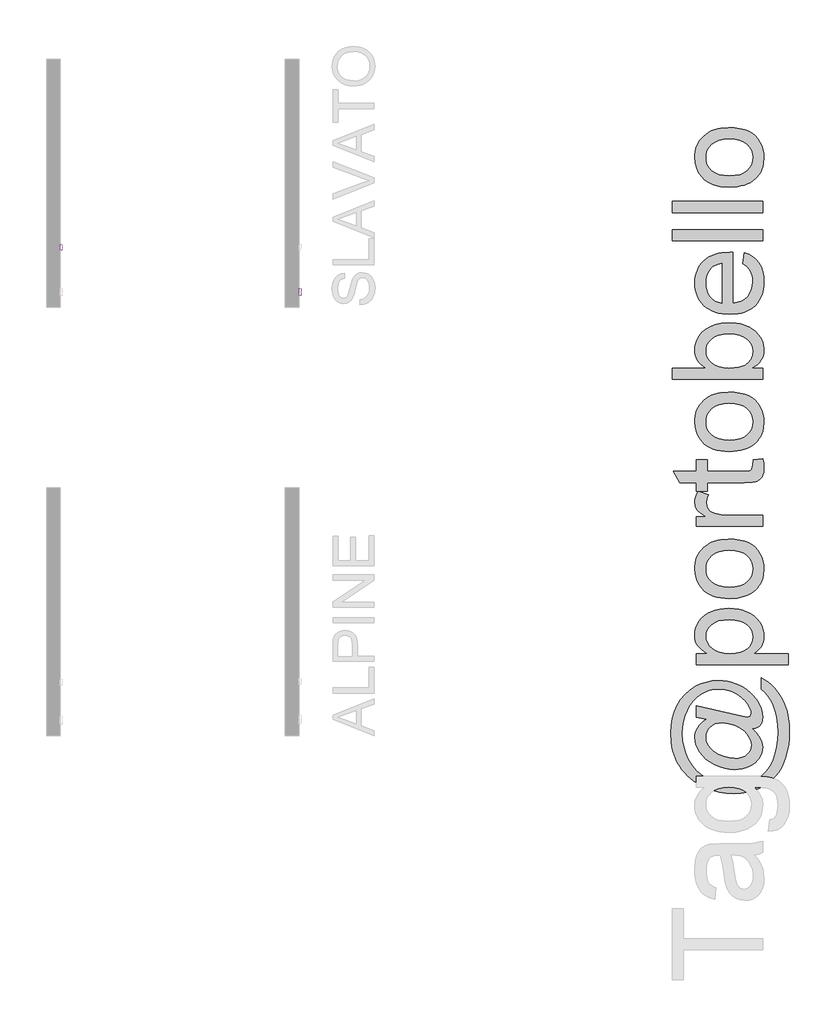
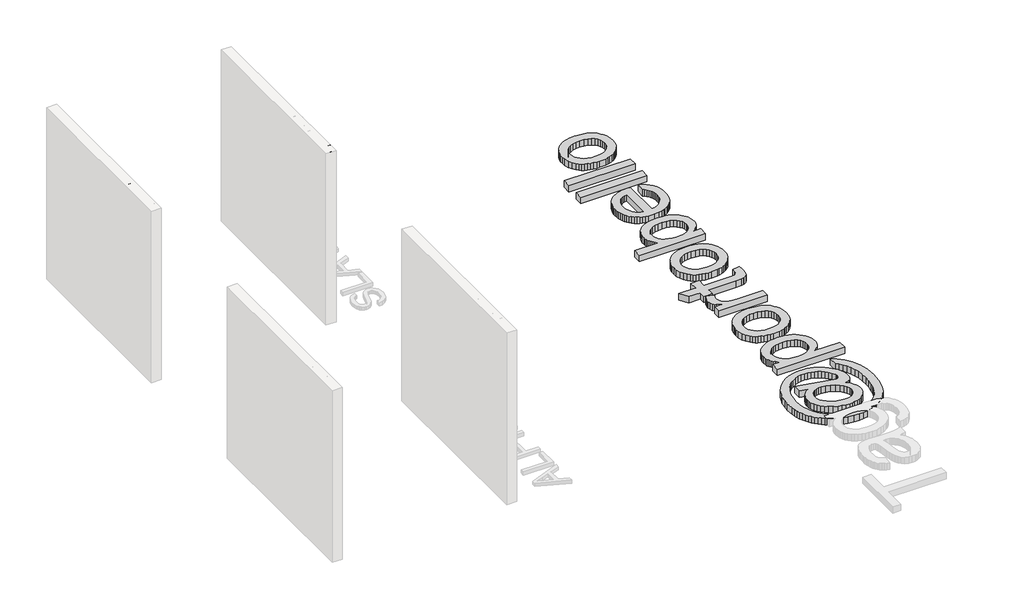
# One storey, part 6 of 11: 3 proxies.
"""IFC4 building model written with IfcOpenShell, lengths in millimetres."""

from ifc_helpers import new_model, si_unit, frame, origin, origin_with_axes, place, context, project, spatial, polyline, outline, extrude, element, save

model = new_model("IFC4")

# Units and contexts
model_context = context("Model", 3, world=origin())
ifc_project = project(units=[si_unit("LENGTHUNIT", "METRE", prefix="MILLI")], contexts=[model_context])

# Site, building, storey
site = spatial("IfcSite", under=ifc_project)
building = spatial("IfcBuilding", under=site)
storey = spatial("IfcBuildingStorey", under=building, Name="PORTOBELLO - SHOWROOM", Elevation=0.0)

# Proxies
placement = place(None, origin())
element("IfcBuildingElementProxy", 1, Name="10mm Arial", ObjectType="10mm Arial", at=placement, inside=storey, context=model_context, shape_type="SweptSolid", body=[
    extrude(outline(polyline([(-4686.8417052, 2603.5991695), (-4674.2846665, 2603.5991695), (-4670.2379645, 2591.029868), (-4660.3542016, 2583.0836169), (-4645.2955652, 2580.0547218), (-4632.1744408, 2582.3478529), (-4623.7008921, 2588.6508978), (-4620.9172517, 2597.0753955), (-4623.0019163, 2604.911282), (-4631.5367786, 2610.6134529), (-4649.8205138, 2615.4081816), (-4669.5022005, 2621.6008618), (-4680.1830411, 2630.9450645), (-4683.7024455, 2643.4285269), (-4679.3491753, 2657.6410346), (-4666.632721, 2667.6719503), (-4648.017892, 2671.0932529), (-4628.1522643, 2667.5125348), (-4614.9085124, 2656.9911097), (-4609.9298428, 2641.2702858), (-4622.4868815, 2641.2702858), (-4624.7922754, 2648.7628158), (-4629.5992668, 2654.1706811), (-4647.5273827, 2658.5362141), (-4665.5045495, 2654.219732), (-4671.1454068, 2643.7964089), (-4667.1477558, 2635.0898683), (-4646.6444659, 2628.0755849), (-4624.4243934, 2621.7725401), (-4612.2720248, 2611.5944715), (-4608.3602129, 2597.3942265), (-4612.860636, 2582.3723784), (-4625.8100822, 2571.4094949), (-4644.8050559, 2567.4976831), (-4667.2335949, 2571.7160633), (-4681.4215772, 2584.4202548), (-4686.8417052, 2603.5991695)])), frame((-23458.2301018, 0.0, 0.0), z_axis=(1.0, 0.0, 0.0), x_axis=(0.0, 1.0, 0.0)), (0.0, 0.0, 1.0), 20.0),
    extrude(outline(polyline([(-23438.2301018, -4578.5372459), (-23438.2301018, -4591.0942846), (-23458.2301018, -4591.0942846), (-23458.2301018, -4578.5372459), (-23438.2301018, -4578.5372459)])), frame((0.0, 0.0, 2569.0673129), z_axis=(0.0, 0.0, 1.0), x_axis=(1.0, 0.0, 0.0)), (0.0, 0.0, 1.0), 100.4563101),
    extrude(outline(polyline([(-4512.6127923, 2578.485092), (-4524.7896864, 2569.9747552), (-4538.2419047, 2567.4976831), (-4548.7357386, 2568.9876051), (-4556.4765889, 2573.4573714), (-4561.2498578, 2580.2447942), (-4562.8409474, 2588.687686), (-4560.4374517, 2598.6204998), (-4554.1221441, 2605.8309869), (-4545.3297644, 2609.9512653), (-4534.4649828, 2611.8397262), (-4512.6863687, 2616.1562083), (-4512.6127923, 2618.9521114), (-4516.0708831, 2628.2227377), (-4529.952297, 2631.8525067), (-4542.6564886, 2629.4367483), (-4548.7142788, 2620.8650978), (-4561.2713175, 2622.4347277), (-4555.8389268, 2634.6974608), (-4544.9005688, 2641.8834225), (-4528.3336162, 2644.4095455), (-4513.1155644, 2642.1777281), (-4504.5193884, 2636.573659), (-4500.6688902, 2628.0510595), (-4500.0557536, 2617.0636505), (-4500.0557536, 2601.4409285), (-4499.4180914, 2579.6255262), (-4496.9164939, 2569.0673129), (-4509.4735326, 2569.0673129), (-4512.6127923, 2578.485092)]), holes=[polyline([(-4512.6127923, 2603.5991695), (-4532.8708275, 2599.7486713), (-4543.6742954, 2597.7130576), (-4548.567126, 2594.4021196), (-4550.2839086, 2589.5706028), (-4546.543775, 2582.7770486), (-4535.5686288, 2580.0547218), (-4522.8644373, 2583.0590914), (-4514.6729315, 2590.3308922), (-4512.6863687, 2600.0429769), (-4512.6127923, 2603.5991695)])]), frame((-23458.2301018, 0.0, 0.0), z_axis=(1.0, 0.0, 0.0), x_axis=(0.0, 1.0, 0.0)), (0.0, 0.0, 1.0), 20.0),
    extrude(outline(polyline([(-4464.6900311, 2569.0673129), (-4490.6379745, 2642.8399157), (-4477.3451717, 2642.8399157), (-4461.6243478, 2598.6450253), (-4456.8909328, 2583.7825927), (-4452.2556196, 2597.8111595), (-4436.4366939, 2642.8399157), (-4423.1438911, 2642.8399157), (-4448.7730034, 2569.0673129), (-4464.6900311, 2569.0673129)])), frame((-23458.2301018, 0.0, 0.0), z_axis=(1.0, 0.0, 0.0), x_axis=(0.0, 1.0, 0.0)), (0.0, 0.0, 1.0), 20.0),
    extrude(outline(polyline([(-4365.0675868, 2578.485092), (-4377.2444808, 2569.9747552), (-4390.6966991, 2567.4976831), (-4401.190533, 2568.9876051), (-4408.9313833, 2573.4573714), (-4413.7046522, 2580.2447942), (-4415.2957419, 2588.687686), (-4412.8922462, 2598.6204998), (-4406.5769386, 2605.8309869), (-4397.7845589, 2609.9512653), (-4386.9197773, 2611.8397262), (-4365.1411632, 2616.1562083), (-4365.0675868, 2618.9521114), (-4368.5256775, 2628.2227377), (-4382.4070915, 2631.8525067), (-4395.1112831, 2629.4367483), (-4401.1690732, 2620.8650978), (-4413.726112, 2622.4347277), (-4408.2937212, 2634.6974608), (-4397.3553632, 2641.8834225), (-4380.7884107, 2644.4095455), (-4365.5703588, 2642.1777281), (-4356.9741829, 2636.573659), (-4353.1236847, 2628.0510595), (-4352.510548, 2617.0636505), (-4352.510548, 2601.4409285), (-4351.8728859, 2579.6255262), (-4349.3712883, 2569.0673129), (-4361.9283271, 2569.0673129), (-4365.0675868, 2578.485092)]), holes=[polyline([(-4365.0675868, 2603.5991695), (-4385.325622, 2599.7486713), (-4396.1290899, 2597.7130576), (-4401.0219204, 2594.4021196), (-4402.7387031, 2589.5706028), (-4398.9985695, 2582.7770486), (-4388.0234233, 2580.0547218), (-4375.3192317, 2583.0590914), (-4367.127726, 2590.3308922), (-4365.1411632, 2600.0429769), (-4365.0675868, 2603.5991695)])]), frame((-23458.2301018, 0.0, 0.0), z_axis=(1.0, 0.0, 0.0), x_axis=(0.0, 1.0, 0.0)), (0.0, 0.0, 1.0), 20.0),
    extrude(outline(polyline([(-4308.5609123, 2579.539687), (-4306.9912825, 2568.6994309), (-4316.3845361, 2567.4976831), (-4326.9059612, 2569.5823477), (-4332.154411, 2575.0515267), (-4333.6749899, 2589.3008226), (-4333.6749899, 2630.2828769), (-4343.0927689, 2630.2828769), (-4343.0927689, 2642.8399157), (-4333.6749899, 2642.8399157), (-4333.6749899, 2660.7680316), (-4321.1179511, 2668.1501969), (-4321.1179511, 2642.8399157), (-4308.5609123, 2642.8399157), (-4308.5609123, 2630.2828769), (-4321.1179511, 2630.2828769), (-4321.1179511, 2589.6687046), (-4320.4557635, 2583.1939815), (-4318.3097852, 2580.9008504), (-4314.0300913, 2580.0547218), (-4308.5609123, 2579.539687)])), frame((-23458.2301018, 0.0, 0.0), z_axis=(1.0, 0.0, 0.0), x_axis=(0.0, 1.0, 0.0)), (0.0, 0.0, 1.0), 20.0),
    extrude(outline(polyline([(-4299.1431333, 2605.9536143), (-4296.4269379, 2623.7407087), (-4288.2783517, 2636.2425652), (-4278.2106477, 2642.3678004), (-4266.156381, 2644.4095455), (-4252.9647458, 2641.9232764), (-4242.4279923, 2634.4644689), (-4235.5210079, 2622.6217343), (-4233.2186797, 2606.9836839), (-4237.2899071, 2584.640984), (-4249.1479701, 2571.9981061), (-4266.156381, 2567.4976831), (-4279.5074318, 2569.9747552), (-4290.0319225, 2577.4059715), (-4296.8653306, 2589.4970264), (-4299.1431333, 2605.9536143)]), holes=[polyline([(-4286.5860945, 2605.9781397), (-4285.1329606, 2594.6136518), (-4280.773559, 2586.5171822), (-4274.2129967, 2581.6703369), (-4266.156381, 2580.0547218), (-4258.1365535, 2581.679534), (-4251.588254, 2586.5539704), (-4247.2288524, 2594.7577389), (-4245.7757185, 2606.3705472), (-4247.2380494, 2617.4039414), (-4251.6250422, 2625.3900464), (-4258.1825388, 2630.2368916), (-4266.156381, 2631.8525067), (-4274.2129967, 2630.243023), (-4280.773559, 2625.4145718), (-4285.1329606, 2617.3364963), (-4286.5860945, 2605.9781397)])]), frame((-23458.2301018, 0.0, 0.0), z_axis=(1.0, 0.0, 0.0), x_axis=(0.0, 1.0, 0.0)), (0.0, 0.0, 1.0), 20.0),
])
element("IfcBuildingElementProxy", 2, Name="10mm Arial Narrow", ObjectType="10mm Arial Narrow", at=placement, inside=storey, context=model_context, shape_type="SweptSolid", body=[
    extrude(outline(polyline([(-4191.1217935, 2562.9954612), (-4191.1217935, 2663.714065), (-4159.8249088, 2663.714065), (-4143.5292073, 2661.8357443), (-4132.0562212, 2652.3553011), (-4127.7665427, 2635.3361923), (-4129.5528511, 2623.2603667), (-4134.9117763, 2613.633973), (-4144.6555652, 2607.3327145), (-4159.5964644, 2605.2322951), (-4181.3748318, 2605.2322951), (-4181.3748318, 2562.9954612), (-4191.1217935, 2562.9954612)]), holes=[polyline([(-4181.3748318, 2616.6037503), (-4158.4034769, 2616.6037503), (-4142.5392815, 2621.1345645), (-4137.5135044, 2634.8031553), (-4139.9883189, 2644.9689317), (-4145.9659477, 2650.7688815), (-4158.6319213, 2652.3426097), (-4181.3748318, 2652.3426097), (-4181.3748318, 2616.6037503)])]), frame((-26058.2301018, 0.0, 0.0), z_axis=(1.0, 0.0, 0.0), x_axis=(0.0, 1.0, 0.0)), (0.0, 0.0, 1.0), 20.0),
    extrude(outline(polyline([(-4119.6440747, 2599.5465674), (-4117.6896058, 2616.137343), (-4111.8261992, 2628.0894278), (-4102.9676325, 2635.3139824), (-4092.0276833, 2637.7221672), (-4081.2146478, 2635.3139824), (-4072.3306983, 2628.0894278), (-4066.3911436, 2616.3277133), (-4064.411292, 2600.3080488), (-4066.3562423, 2583.1461622), (-4072.1910934, 2571.0037071), (-4081.0401416, 2563.7791525), (-4092.0276833, 2561.3709676), (-4102.8883115, 2563.7854982), (-4111.7627424, 2571.0290898), (-4117.6737416, 2582.9875203), (-4119.6440747, 2599.5465674)]), holes=[polyline([(-4109.897113, 2599.5719502), (-4108.5930762, 2587.0201988), (-4104.6809656, 2578.1489407), (-4098.8397688, 2572.8756821), (-4091.7484735, 2571.1179293), (-4085.0284003, 2572.8915463), (-4079.336327, 2578.2123975), (-4075.452772, 2587.0995197), (-4074.1582536, 2599.5719502), (-4075.4622905, 2612.0856275), (-4079.3744011, 2620.9441942), (-4085.2155978, 2626.2174527), (-4092.3068932, 2627.9752056), (-4099.0745589, 2626.2079342), (-4104.7571137, 2620.9061201), (-4108.6121132, 2612.0380349), (-4109.897113, 2599.5719502)])]), frame((-26058.2301018, 0.0, 0.0), z_axis=(1.0, 0.0, 0.0), x_axis=(0.0, 1.0, 0.0)), (0.0, 0.0, 1.0), 20.0),
    extrude(outline(polyline([(-3992.9335732, 2571.1179293), (-3991.3090796, 2561.3709676), (-3998.6700663, 2561.3709676), (-4006.9448306, 2563.4904241), (-4011.2598917, 2569.290374), (-4012.4274965, 2583.9361992), (-4012.4274965, 2626.350712), (-4020.5499646, 2626.350712), (-4020.5499646, 2629.5996992), (-4022.1744582, 2624.7262184), (-4029.7385065, 2626.350712), (-4035.8176662, 2624.0281938), (-4039.6885299, 2617.5429107), (-4041.6683815, 2602.1356041), (-4041.6683815, 2562.9954612), (-4051.4153431, 2562.9954612), (-4051.4153431, 2636.0976736), (-4041.6683815, 2636.0976736), (-4041.6683815, 2626.4014774), (-4035.4242342, 2635.4884885), (-4029.0277906, 2637.7221672), (-4020.5499646, 2636.0976736), (-4012.4274965, 2636.0976736), (-4012.4274965, 2652.3426097), (-4002.6805349, 2660.4650778), (-4002.6805349, 2636.0976736), (-3992.9335732, 2636.0976736), (-3992.9335732, 2626.350712), (-4002.6805349, 2626.350712), (-4002.6805349, 2581.7025205), (-4001.8175226, 2573.706966), (-3997.1978689, 2571.1179293), (-3992.9335732, 2571.1179293)])), frame((-26058.2301018, 0.0, 0.0), z_axis=(1.0, 0.0, 0.0), x_axis=(0.0, 1.0, 0.0)), (0.0, 0.0, 1.0), 20.0),
    extrude(outline(polyline([(-3986.4355988, 2599.5465674), (-3984.4811299, 2616.137343), (-3978.6177233, 2628.0894278), (-3969.7591566, 2635.3139824), (-3958.8192074, 2637.7221672), (-3948.0061718, 2635.3139824), (-3939.1222224, 2628.0894278), (-3933.1826676, 2616.3277133), (-3931.2028161, 2600.3080488), (-3933.1477664, 2583.1461622), (-3938.9826175, 2571.0037071), (-3947.8316657, 2563.7791525), (-3958.8192074, 2561.3709676), (-3969.6798356, 2563.7854982), (-3978.5542665, 2571.0290898), (-3984.4652657, 2582.9875203), (-3986.4355988, 2599.5465674)]), holes=[polyline([(-3976.6886371, 2599.5719502), (-3975.3846002, 2587.0201988), (-3971.4724897, 2578.1489407), (-3965.6312929, 2572.8756821), (-3958.5399976, 2571.1179293), (-3951.8199244, 2572.8915463), (-3946.1278511, 2578.2123975), (-3942.2442961, 2587.0995197), (-3940.9497777, 2599.5719502), (-3942.2538146, 2612.0856275), (-3946.1659252, 2620.9441942), (-3952.0071219, 2626.2174527), (-3959.0984173, 2627.9752056), (-3965.866083, 2626.2079342), (-3971.5486378, 2620.9061201), (-3975.4036373, 2612.0380349), (-3976.6886371, 2599.5719502)])]), frame((-26058.2301018, 0.0, 0.0), z_axis=(1.0, 0.0, 0.0), x_axis=(0.0, 1.0, 0.0)), (0.0, 0.0, 1.0), 20.0),
    extrude(outline(polyline([(-3908.4599055, 2562.9954612), (-3918.2068672, 2562.9954612), (-3918.2068672, 2663.714065), (-3908.4599055, 2663.714065), (-3908.4599055, 2628.3051809), (-3901.0608448, 2635.3869577), (-3891.8596115, 2637.7221672), (-3878.9778848, 2633.5213283), (-3869.7005033, 2620.7918979), (-3866.2230717, 2600.1049871), (-3868.1553307, 2583.6506436), (-3873.9521077, 2571.4479045), (-3882.32523, 2563.8902019), (-3891.986525, 2561.3709676), (-3901.3273633, 2563.985387), (-3908.4599055, 2571.7524971), (-3908.4599055, 2562.9954612)]), holes=[polyline([(-3908.4599055, 2600.1049871), (-3906.3785231, 2582.8574339), (-3900.4897338, 2574.1257807), (-3892.0372905, 2571.1179293), (-3886.0945629, 2572.9074105), (-3880.8562055, 2578.2758542), (-3875.9700334, 2599.6988637), (-3880.6785266, 2621.1345645), (-3885.9232296, 2626.2650453), (-3892.2403522, 2627.9752056), (-3898.217981, 2626.1857244), (-3903.5102766, 2620.8172806), (-3908.4599055, 2600.1049871)])]), frame((-26058.2301018, 0.0, 0.0), z_axis=(1.0, 0.0, 0.0), x_axis=(0.0, 1.0, 0.0)), (0.0, 0.0, 1.0), 20.0),
    extrude(outline(polyline([(-3814.2392762, 2585.7383718), (-3804.4923146, 2584.1138782), (-3808.1918449, 2574.2273116), (-3814.0108318, 2567.1074607), (-3821.7144851, 2562.8050909), (-3831.0680147, 2561.3709676), (-3842.6615687, 2563.7854982), (-3851.8056909, 2571.0290898), (-3857.7452457, 2582.835224), (-3859.7250973, 2598.9373823), (-3857.7357272, 2615.604306), (-3851.7676169, 2627.7848353), (-3842.753581, 2635.2378342), (-3831.6264344, 2637.7221672), (-3820.9434852, 2635.3235009), (-3812.1959679, 2628.1275019), (-3806.3611168, 2616.3879973), (-3804.4161664, 2600.3588142), (-3804.4923146, 2597.109827), (-3849.9781356, 2597.109827), (-3843.9751241, 2577.6666691), (-3838.0450878, 2572.7551142), (-3830.9411011, 2571.1179293), (-3820.7626334, 2574.7730399), (-3814.2392762, 2585.7383718)]), holes=[polyline([(-3849.3181851, 2606.8567887), (-3814.2392762, 2606.8567887), (-3818.5035719, 2621.1218732), (-3824.3289045, 2626.2618725), (-3831.5502862, 2627.9752056), (-3843.759371, 2622.2640953), (-3849.3181851, 2606.8567887)])]), frame((-26058.2301018, 0.0, 0.0), z_axis=(1.0, 0.0, 0.0), x_axis=(0.0, 1.0, 0.0)), (0.0, 0.0, 1.0), 20.0),
    extrude(outline(polyline([(-26038.2301018, -3781.749404), (-26038.2301018, -3791.4963657), (-26058.2301018, -3791.4963657), (-26058.2301018, -3781.749404), (-26038.2301018, -3781.749404)])), frame((0.0, 0.0, 2562.9954612), z_axis=(0.0, 0.0, 1.0), x_axis=(1.0, 0.0, 0.0)), (0.0, 0.0, 1.0), 100.7186038),
    extrude(outline(polyline([(-26038.2301018, -3755.7575063), (-26038.2301018, -3765.504468), (-26058.2301018, -3765.504468), (-26058.2301018, -3755.7575063), (-26038.2301018, -3755.7575063)])), frame((0.0, 0.0, 2562.9954612), z_axis=(0.0, 0.0, 1.0), x_axis=(1.0, 0.0, 0.0)), (0.0, 0.0, 1.0), 100.7186038),
    extrude(outline(polyline([(-3744.386051, 2599.5465674), (-3742.4315822, 2616.137343), (-3736.5681755, 2628.0894278), (-3727.7096088, 2635.3139824), (-3716.7696597, 2637.7221672), (-3705.9566241, 2635.3139824), (-3697.0726747, 2628.0894278), (-3691.1331199, 2616.3277133), (-3689.1532683, 2600.3080488), (-3691.0982187, 2583.1461622), (-3696.9330698, 2571.0037071), (-3705.7821179, 2563.7791525), (-3716.7696597, 2561.3709676), (-3727.6302879, 2563.7854982), (-3736.5047188, 2571.0290898), (-3742.415718, 2582.9875203), (-3744.386051, 2599.5465674)]), holes=[polyline([(-3734.6390894, 2599.5719502), (-3733.3350525, 2587.0201988), (-3729.4229419, 2578.1489407), (-3723.5817452, 2572.8756821), (-3716.4904498, 2571.1179293), (-3709.7703767, 2572.8915463), (-3704.0783034, 2578.2123975), (-3700.1947483, 2587.0995197), (-3698.90023, 2599.5719502), (-3700.2042668, 2612.0856275), (-3704.1163774, 2620.9441942), (-3709.9575742, 2626.2174527), (-3717.0488695, 2627.9752056), (-3723.8165353, 2626.2079342), (-3729.4990901, 2620.9061201), (-3733.3540896, 2612.0380349), (-3734.6390894, 2599.5719502)])]), frame((-26058.2301018, 0.0, 0.0), z_axis=(1.0, 0.0, 0.0), x_axis=(0.0, 1.0, 0.0)), (0.0, 0.0, 1.0), 20.0),
])
element("IfcBuildingElementProxy", 3, Name="80mm OpenSans Bold", ObjectType="80mm OpenSans Bold", at=placement, inside=storey, context=model_context, shape_type="SweptSolid", body=[
    extrude(outline(polyline([(-18524.4026788, -9398.1616347), (-18478.4626159, -9444.041606), (-18442.5578577, -9495.1495504), (-18429.0447489, -9522.0330503), (-18419.3925284, -9548.9616189), (-18413.601196, -9575.9352563), (-18411.6707519, -9602.9539624), (-18413.8791199, -9632.4289145), (-18420.5042238, -9661.4832251), (-18431.5460637, -9690.1168941), (-18447.0046395, -9718.3299217), (-18467.0452032, -9745.0181237), (-18491.833007, -9769.0773163), (-18521.3680507, -9790.5074993), (-18555.6503344, -9809.3086729), (-18593.2076129, -9824.6095081), (-18632.5676406, -9835.5386761), (-18673.7304178, -9842.0961769), (-18716.6959443, -9844.2820105), (-18770.6882877, -9840.894344), (-18824.7407228, -9830.7313445), (-18878.8532495, -9813.7930119), (-18933.0258679, -9790.0793463), (-18983.8483771, -9761.325494), (-19027.9105761, -9729.2666011), (-19065.212465, -9693.9026678), (-19095.7540438, -9655.2336939), (-19119.5202896, -9615.2051466), (-19136.4961794, -9575.7624928), (-19146.6817133, -9536.9057326), (-19150.0768913, -9498.6348659), (-19148.1464472, -9470.1063572), (-19142.3551149, -9442.2088108), (-19132.7028943, -9414.9422267), (-19119.1897855, -9388.3066048), (-19101.7256511, -9362.9028617), (-19080.2203535, -9339.3319138), (-19054.6738927, -9317.593761), (-19025.0862688, -9297.6884035), (-19134.6934301, -9275.0939448), (-19134.6934301, -9152.0262549), (-18683.2849894, -9253.9416856), (-18579.2062595, -9275.0939448), (-18562.2303696, -9271.6386752), (-18547.8384205, -9261.2728663), (-18538.0134365, -9246.0396342), (-18534.7384418, -9227.9820947), (-18537.1721535, -9208.6776536), (-18544.4732884, -9186.578951), (-18573.6778281, -9133.9987612), (-18601.2223361, -9097.5456668), (-18633.1385113, -9065.1036897), (-18669.4263537, -9036.67283), (-18710.0858633, -9012.2530875), (-18753.269222, -8992.6406768), (-18797.1286117, -8978.6318119), (-18841.6640325, -8970.226493), (-18886.8754842, -8967.42472), (-18939.1251699, -8971.0302188), (-18989.6321979, -8981.8467149), (-19038.3965682, -8999.8742086), (-19085.4182808, -9025.1126997), (-19129.2626476, -9057.509608), (-19168.4949806, -9097.0123535), (-19203.1152799, -9143.620936), (-19233.1235453, -9197.3353556), (-19257.3630128, -9256.0974734), (-19274.6769182, -9317.8491505), (-19285.0652614, -9382.590387), (-19288.5280424, -9450.3211829), (-19284.1338409, -9527.5840161), (-19270.9512361, -9601.4516713), (-19248.9802283, -9671.9241485), (-19218.2208173, -9739.0014477), (-19179.2588966, -9800.7005447), (-19132.68036, -9855.0384151), (-19078.4852072, -9902.0150589), (-19016.6734384, -9941.6304762), (-18949.8815745, -9973.0734297), (-18880.7461364, -9995.5326822), (-18809.2671241, -10009.0082337), (-18735.4445377, -10013.5000842), (-18659.4661634, -10009.0533024), (-18588.9711519, -9995.7129571), (-18523.9595029, -9973.4790483), (-18464.4312166, -9942.3515759), (-18411.3552708, -9902.8037618), (-18365.7006432, -9855.3088275), (-18327.4673337, -9799.8667731), (-18296.6553425, -9736.4775986), (-18272.9416769, -9667.3046032), (-18256.0033444, -9594.5110862), (-18245.8403448, -9518.0970475), (-18242.4526783, -9438.0624873), (-18245.8178105, -9354.0092982), (-18255.9132069, -9277.0769691), (-18272.7388676, -9207.2655), (-18296.2947926, -9144.5748908), (-18324.6580493, -9089.1553708), (-18355.9057049, -9041.157169), (-18390.0377596, -9000.5802854), (-18427.0542132, -8967.42472), (-18427.0542132, -8844.3570301), (-18390.9541572, -8864.3450137), (-18354.5235971, -8890.4172764), (-18317.762533, -8922.5738182), (-18280.6709648, -8960.814639), (-18245.3596117, -9004.0580894), (-18213.9391926, -9051.2225196), (-18186.4097075, -9102.3079297), (-18162.7711564, -9157.3143197), (-18143.7897079, -9217.1956444), (-18130.2315304, -9282.9058587), (-18122.0966239, -9354.4449626), (-18119.3849884, -9431.8129561), (-18121.7811428, -9504.290992), (-18128.9696059, -9573.8996518), (-18140.9503777, -9640.6389355), (-18157.7234582, -9704.5088432), (-18179.2963589, -9764.6380459), (-18205.6765913, -9820.1552149), (-18236.8641553, -9871.0603501), (-18272.8590509, -9917.3534514), (-18312.7223462, -9958.6213889), (-18355.5151092, -9994.4510325), (-18401.23734, -10024.8423822), (-18449.8890384, -10049.795438), (-18514.6077406, -10074.2978064), (-18581.8502919, -10091.7994982), (-18651.6166922, -10102.3005132), (-18723.9069417, -10105.8008516), (-18804.8954569, -10101.6244822), (-18883.9309936, -10089.0953741), (-18961.0135518, -10068.2135273), (-19036.1431315, -10038.9789418), (-19121.7962607, -9994.0754598), (-19160.6286087, -9968.4125714), (-19196.7981457, -9940.6089182), (-19230.3048716, -9910.6645001), (-19261.1487865, -9878.5793172), (-19289.3298903, -9844.3533694), (-19314.8481832, -9807.9866567), (-19337.52339, -9769.5542937), (-19357.1752359, -9729.1313949), (-19373.8037209, -9686.7179604), (-19387.408845, -9642.3139902), (-19397.9906082, -9595.9194841), (-19405.5490105, -9547.5344424), (-19411.5957323, -9444.7927515), (-19407.3592713, -9364.209855), (-19394.6498883, -9287.8333736), (-19373.4675833, -9215.6633074), (-19343.8123563, -9147.6996564), (-19305.7593218, -9085.3095055), (-19259.3835944, -9029.8599397), (-19204.6851741, -8981.3509589), (-19141.6640609, -8939.7825631), (-19082.6991338, -8911.494421), (-19021.1803118, -8891.2886052), (-18957.1075948, -8879.1651158), (-18890.4809829, -8875.1239526), (-18842.7794836, -8877.2196487), (-18796.4225349, -8883.5067371), (-18751.4101367, -8893.9852178), (-18707.7422891, -8908.6550908), (-18665.4189921, -8927.516356), (-18624.4402456, -8950.5690135), (-18584.8060497, -8977.8130632), (-18546.5164043, -9009.2485053), (-18514.9119546, -9039.5797633), (-18487.5214314, -9070.6020753), (-18464.3448349, -9102.3154412), (-18445.382165, -9134.719861), (-18430.6334218, -9167.8153347), (-18420.0986052, -9201.6018624), (-18413.7777152, -9236.079444), (-18411.6707519, -9271.2480795), (-18415.216159, -9312.2906733), (-18425.8523803, -9344.5598869), (-18443.0385909, -9368.77682), (-18466.233966, -9385.6625724), (-18489.3091579, -9393.1139365), (-18524.4026788, -9398.1616347)]), holes=[polyline([(-18714.7730116, -9721.2143207), (-18674.4815633, -9718.5177081), (-18638.937355, -9710.4278703), (-18608.1403868, -9696.9448073), (-18582.0906584, -9678.0685192), (-18561.3740637, -9655.7069156), (-18546.576496, -9631.7679064), (-18537.6979554, -9606.2514914), (-18534.7384418, -9579.1576708), (-18539.966415, -9540.9093385), (-18555.6503344, -9500.6779818), (-18581.6099253, -9460.3865335), (-18617.6649126, -9421.9579263), (-18664.2960294, -9387.8559175), (-18721.9840091, -9360.5442646), (-18785.3206034, -9342.6069084), (-18848.8975643, -9336.6277897), (-18888.8359741, -9339.4295627), (-18924.0421669, -9347.8348816), (-18954.5161426, -9361.8437464), (-18980.2579012, -9381.4561572), (-19000.7115951, -9405.0947083), (-19015.3213764, -9431.1819938), (-19024.0872452, -9459.718014), (-19027.0092014, -9490.7027687), (-19021.9314574, -9531.9857291), (-19006.6982252, -9570.7448404), (-18980.2579012, -9607.6711566), (-18941.5588816, -9643.4557314), (-18891.8931366, -9675.1841202), (-18832.5526367, -9699.9418782), (-18771.0187918, -9715.89621), (-18714.7730116, -9721.2143207)])]), origin_with_axes(), (0.0, 0.0, 1.0), 100.0),
    extrude(outline(polyline([(-18134.7684497, -8705.905879), (-19134.6934301, -8705.905879), (-19134.6934301, -8582.8381891), (-19014.029406, -8582.8381891), (-19045.9155354, -8563.368496), (-19073.5501808, -8542.6969699), (-19096.9333424, -8520.823611), (-19116.06502, -8497.7484191), (-19130.9452137, -8472.8103863), (-19141.5739235, -8445.3485043), (-19147.9511494, -8415.3627732), (-19150.0768913, -8382.853193), (-19147.1023549, -8339.9327353), (-19138.1787455, -8299.6262641), (-19123.3060633, -8261.9337794), (-19102.4843081, -8226.8552814), (-19076.2543049, -8195.1569384), (-19045.1568783, -8167.604919), (-19009.1920285, -8144.1992231), (-18968.3597554, -8124.9398507), (-18924.0571898, -8109.9019164), (-18877.6814625, -8099.1605348), (-18829.2325733, -8092.7157058), (-18778.7105224, -8090.5674295), (-18724.6956446, -8092.9936297), (-18673.4600054, -8100.2722303), (-18625.0036048, -8112.4032312), (-18579.3264428, -8129.3866325), (-18537.6228408, -8150.989579), (-18501.0871204, -8176.9792157), (-18469.7192814, -8207.3555425), (-18443.519324, -8242.1185594), (-18422.8553094, -8279.5631659), (-18408.095299, -8317.9842617), (-18399.2392928, -8357.3818468), (-18396.2872907, -8397.7559211), (-18398.2628035, -8426.8027202), (-18404.1893421, -8454.3322053), (-18414.0669063, -8480.3443763), (-18427.8954962, -8504.8392333), (-18463.6800711, -8548.0751722), (-18507.8173847, -8582.8381891), (-18134.7684497, -8582.8381891), (-18134.7684497, -8705.905879)]), holes=[polyline([(-18767.413293, -8582.8381891), (-18708.102839, -8579.5106142), (-18657.085032, -8569.5278896), (-18614.3598721, -8552.8900153), (-18579.9273592, -8529.5969912), (-18553.4269436, -8501.5567272), (-18534.4980752, -8470.6771329), (-18523.1407543, -8436.9582083), (-18519.3549806, -8400.3999535), (-18523.2759605, -8363.3158968), (-18535.0389001, -8328.9810329), (-18554.6437994, -8297.3953617), (-18582.0906584, -8268.5588834), (-18617.7700729, -8244.5297366), (-18662.0726385, -8227.3660604), (-18714.9983553, -8217.0678547), (-18776.5472231, -8213.6351194), (-18835.3468982, -8216.9852286), (-18886.2745678, -8227.0355563), (-18929.3302317, -8243.7861025), (-18964.5138901, -8267.2368672), (-18991.8555888, -8295.3447343), (-19011.3853736, -8326.0665881), (-19023.1032445, -8359.4024284), (-19027.0092014, -8395.3522553), (-19022.8553664, -8431.1894103), (-19010.3938614, -8464.9083349), (-18989.6246865, -8496.5090289), (-18960.5478415, -8525.9914925), (-18923.5539223, -8550.8619223), (-18879.0335245, -8568.626515), (-18826.9866481, -8579.2852706), (-18767.413293, -8582.8381891)])]), origin_with_axes(), (0.0, 0.0, 1.0), 100.0),
    extrude(outline(polyline([(-18773.182091, -7982.8832009), (-18821.619713, -7981.2194134), (-18866.8198975, -7976.2280511), (-18908.7826447, -7967.909114), (-18947.5079545, -7956.2626019), (-18982.9958268, -7941.288515), (-19015.2462618, -7922.9868532), (-19044.2592594, -7901.3576166), (-19070.0348196, -7876.4008051), (-19105.053226, -7829.4992758), (-19130.0663734, -7777.7303233), (-19145.0742618, -7721.0939474), (-19150.0768913, -7659.5901483), (-19148.5539437, -7624.8290093), (-19143.9851008, -7591.6941004), (-19136.3703626, -7560.1854217), (-19125.7097291, -7530.3029731), (-19112.0032003, -7502.0467547), (-19095.2507763, -7475.4167664), (-19075.452457, -7450.4130083), (-19052.6082424, -7427.0354804), (-19027.0786824, -7405.8813433), (-18999.2243268, -7387.5477578), (-18969.0451758, -7372.034724), (-18936.5412292, -7359.3422418), (-18901.712487, -7349.4703111), (-18864.5589494, -7342.4189321), (-18783.2774874, -7336.7778289), (-18717.4020211, -7339.2716322), (-18658.947873, -7346.753042), (-18607.9150431, -7359.2220585), (-18564.3035314, -7376.6786815), (-18526.6335811, -7398.9050788), (-18493.4254356, -7425.6834183), (-18464.6790947, -7457.0137), (-18440.3945585, -7492.8959238), (-18421.0976288, -7531.932959), (-18407.3141076, -7572.7276748), (-18399.0439949, -7615.2800712), (-18396.2872907, -7659.5901483), (-18402.3565469, -7728.4777084), (-18409.9431171, -7760.3244026), (-18420.5643155, -7790.4397063), (-18434.2201419, -7818.8236194), (-18450.9105964, -7845.4761421), (-18470.635679, -7870.3972741), (-18493.3953898, -7893.5870157), (-18519.0094536, -7914.5158091), (-18547.2975957, -7932.6540967), (-18578.259816, -7948.0018785), (-18611.8961146, -7960.5591546), (-18648.2064914, -7970.3259248), (-18687.1909464, -7977.3021893), (-18773.182091, -7982.8832009)]), holes=[polyline([(-18773.4224576, -7859.815511), (-18713.7289193, -7856.255081), (-18662.0425927, -7845.573791), (-18618.3634779, -7827.771641), (-18582.6915749, -7802.8486311), (-18554.9818149, -7772.5323959), (-18535.1891292, -7738.5505704), (-18523.3135177, -7700.9031545), (-18519.3549806, -7659.5901483), (-18523.3360521, -7618.4874628), (-18535.2792666, -7580.990276), (-18555.1846242, -7547.098588), (-18583.0521248, -7516.8123987), (-18619.0770662, -7491.8893887), (-18663.4547464, -7474.0872388), (-18716.1851653, -7463.4059488), (-18777.2683229, -7459.8455188), (-18835.0689744, -7463.4284832), (-18885.4032389, -7474.1773762), (-18928.2711165, -7492.092198), (-18963.6726071, -7517.1729486), (-18991.3823671, -7547.5718097), (-19011.1750528, -7581.4409634), (-19023.0506643, -7618.7804096), (-19027.0092014, -7659.5901483), (-19023.0656872, -7700.9031545), (-19011.2351445, -7738.5505704), (-18991.5175733, -7772.5323959), (-18963.9129737, -7802.8486311), (-18928.346231, -7827.771641), (-18884.7422308, -7845.573791), (-18833.100973, -7856.255081), (-18773.4224576, -7859.815511)])]), origin_with_axes(), (0.0, 0.0, 1.0), 100.0),
    extrude(outline(polyline([(-18514.3072824, -6475.3039996), (-18408.0652532, -6459.9205384), (-18399.2317813, -6508.6548628), (-18396.2872907, -6551.9809392), (-18401.3950806, -6611.0510267), (-18407.7798179, -6634.9524787), (-18416.7184501, -6655.0982028), (-18440.3344668, -6686.2256752), (-18470.3201979, -6706.5366513), (-18491.48748, -6713.0565949), (-18521.8187381, -6717.7136974), (-18609.9731819, -6721.4393794), (-19011.6257402, -6721.4393794), (-19011.6257402, -6813.7401468), (-19112.0989714, -6813.7401468), (-19134.6934301, -6813.7401468), (-19134.6934301, -6721.4393794), (-19310.4014014, -6721.4393794), (-19382.7517425, -6598.3716895), (-19134.6934301, -6598.3716895), (-19134.6934301, -6475.3039996), (-19011.6257402, -6475.3039996), (-19011.6257402, -6598.3716895), (-18613.5786807, -6598.3716895), (-18573.0769116, -6596.7492151), (-18550.1219031, -6591.8817918), (-18537.41252, -6583.378824), (-18527.6476277, -6570.8497159), (-18521.4281424, -6553.0926347), (-18519.3549806, -6528.9057474), (-18514.3072824, -6475.3039996)])), origin_with_axes(), (0.0, 0.0, 1.0), 100.0),
    extrude(outline(polyline([(-18411.6707519, -7198.3266778), (-19134.6934301, -7198.3266778), (-19134.6934301, -7090.6424491), (-19027.7303012, -7090.6424491), (-19089.7448793, -7050.8617798), (-19111.1975967, -7032.1432322), (-19126.2805997, -7014.2058761), (-19144.1278184, -6977.4297891), (-19150.0768913, -6937.2885699), (-19147.7032713, -6906.762014), (-19140.5824113, -6875.9950915), (-19128.7143114, -6844.9878025), (-19112.0989714, -6813.7401468), (-19001.7707103, -6854.8428323), (-19020.6995786, -6898.1088171), (-19027.0092014, -6941.3748018), (-19020.9399452, -6978.120843), (-19002.7321766, -7010.9609272), (-18989.4218772, -7025.315319), (-18973.7680035, -7037.4913887), (-18935.4295337, -7055.3085616), (-18866.6846913, -7070.2713813), (-18791.6903178, -7075.2589879), (-18411.6707519, -7075.2589879), (-18411.6707519, -7198.3266778)])), origin_with_axes(), (0.0, 0.0, 1.0), 100.0),
    extrude(outline(polyline([(-18773.182091, -6383.0032322), (-18821.619713, -6381.3394448), (-18866.8198975, -6376.3480825), (-18908.7826447, -6368.0291453), (-18947.5079545, -6356.3826333), (-18982.9958268, -6341.4085464), (-19015.2462618, -6323.1068846), (-19044.2592594, -6301.4776479), (-19070.0348196, -6276.5208364), (-19105.053226, -6229.6193072), (-19130.0663734, -6177.8503546), (-19145.0742618, -6121.2139788), (-19150.0768913, -6059.7101796), (-19148.5539437, -6024.9490406), (-19143.9851008, -5991.8141317), (-19136.3703626, -5960.305453), (-19125.7097291, -5930.4230044), (-19112.0032003, -5902.166786), (-19095.2507763, -5875.5367978), (-19075.452457, -5850.5330397), (-19052.6082424, -5827.1555117), (-19027.0786824, -5806.0013746), (-18999.2243268, -5787.6677892), (-18969.0451758, -5772.1547553), (-18936.5412292, -5759.4622731), (-18901.712487, -5749.5903425), (-18864.5589494, -5742.5389634), (-18783.2774874, -5736.8978602), (-18717.4020211, -5739.3916635), (-18658.947873, -5746.8730734), (-18607.9150431, -5759.3420898), (-18564.3035314, -5776.7987128), (-18526.6335811, -5799.0251102), (-18493.4254356, -5825.8034497), (-18464.6790947, -5857.1337313), (-18440.3945585, -5893.0159551), (-18421.0976288, -5932.0529903), (-18407.3141076, -5972.8477061), (-18399.0439949, -6015.4001026), (-18396.2872907, -6059.7101796), (-18402.3565469, -6128.5977397), (-18409.9431171, -6160.4444339), (-18420.5643155, -6190.5597376), (-18434.2201419, -6218.9436508), (-18450.9105964, -6245.5961734), (-18470.635679, -6270.5173055), (-18493.3953898, -6293.707047), (-18519.0094536, -6314.6358404), (-18547.2975957, -6332.774128), (-18578.259816, -6348.1219099), (-18611.8961146, -6360.6791859), (-18648.2064914, -6370.4459562), (-18687.1909464, -6377.4222206), (-18773.182091, -6383.0032322)]), holes=[polyline([(-18773.4224576, -6259.9355423), (-18713.7289193, -6256.3751123), (-18662.0425927, -6245.6938223), (-18618.3634779, -6227.8916724), (-18582.6915749, -6202.9686624), (-18554.9818149, -6172.6524273), (-18535.1891292, -6138.6706018), (-18523.3135177, -6101.0231859), (-18519.3549806, -6059.7101796), (-18523.3360521, -6018.6074941), (-18535.2792666, -5981.1103074), (-18555.1846242, -5947.2186193), (-18583.0521248, -5916.93243), (-18619.0770662, -5892.0094201), (-18663.4547464, -5874.2072701), (-18716.1851653, -5863.5259801), (-18777.2683229, -5859.9655501), (-18835.0689744, -5863.5485145), (-18885.4032389, -5874.2974076), (-18928.2711165, -5892.2122294), (-18963.6726071, -5917.2929799), (-18991.3823671, -5947.691841), (-19011.1750528, -5981.5609947), (-19023.0506643, -6018.9004409), (-19027.0092014, -6059.7101796), (-19023.0656872, -6101.0231859), (-19011.2351445, -6138.6706018), (-18991.5175733, -6172.6524273), (-18963.9129737, -6202.9686624), (-18928.346231, -6227.8916724), (-18884.7422308, -6245.6938223), (-18833.100973, -6256.3751123), (-18773.4224576, -6259.9355423)])]), origin_with_axes(), (0.0, 0.0, 1.0), 100.0),
    extrude(outline(polyline([(-18411.6707519, -5475.3790192), (-18411.6707519, -5598.4467091), (-19396.2122711, -5598.4467091), (-19396.2122711, -5475.3790192), (-19031.0954333, -5475.3790192), (-19058.9817125, -5455.7966542), (-19083.1498212, -5434.907296), (-19103.5997593, -5412.7109444), (-19120.3315268, -5389.2075996), (-19133.3451238, -5364.3972615), (-19142.6405502, -5338.2799301), (-19148.217806, -5310.8556054), (-19150.0768913, -5282.1242874), (-19148.4018367, -5249.99028), (-19143.3766728, -5218.7276015), (-19135.0013998, -5188.3362518), (-19123.2760174, -5158.8162309), (-19108.516007, -5131.0238449), (-19091.0368496, -5105.8153996), (-19070.8385453, -5083.1908951), (-19047.921094, -5063.1503314), (-18994.3493921, -5029.7093307), (-18930.7423854, -5004.3807021), (-18859.7441063, -4988.4263702), (-18783.9985872, -4983.1082596), (-18696.5952889, -4988.6141566), (-18656.8371539, -4995.4965279), (-18619.7080285, -5005.1318477), (-18585.2079126, -5017.520116), (-18553.3368061, -5032.6613327), (-18524.0947091, -5050.555498), (-18497.4816216, -5071.2026119), (-18453.2091019, -5117.4656674), (-18435.8163262, -5142.2591047), (-18421.5858734, -5168.1604818), (-18410.5177435, -5195.1697986), (-18402.6119364, -5223.287055), (-18397.8684521, -5252.5122512), (-18396.2872907, -5282.8453872), (-18398.3266509, -5312.6696219), (-18404.4447316, -5340.8488479), (-18414.6415327, -5367.3830651), (-18428.9170542, -5392.2722735), (-18447.2712961, -5415.5164731), (-18469.7042585, -5437.115664), (-18496.2159414, -5457.069846), (-18526.8063446, -5475.3790192), (-18411.6707519, -5475.3790192)]), holes=[polyline([(-18778.2297892, -5475.3790192), (-18722.7652005, -5473.2758116), (-18675.5932588, -5466.9661888), (-18636.7139642, -5456.4501509), (-18606.1273166, -5441.7276977), (-18568.1644196, -5411.9072187), (-18541.0480646, -5377.2493622), (-18524.7782516, -5337.7541282), (-18519.3549806, -5293.4215168), (-18523.351075, -5256.6153839), (-18535.3393583, -5222.3931918), (-18555.3198304, -5190.7549405), (-18583.2924914, -5161.7006299), (-18619.1822266, -5137.4085822), (-18662.9139216, -5120.0571196), (-18714.4875763, -5109.646242), (-18773.9031907, -5106.1759495), (-18834.4455235, -5109.5035244), (-18886.5149343, -5119.486249), (-18930.1114231, -5136.1241233), (-18965.2349899, -5159.4171474), (-18992.2612074, -5187.4273656), (-19011.5656485, -5218.2168225), (-19023.1483132, -5251.7855179), (-19027.0092014, -5288.133452), (-19023.013107, -5324.9395848), (-19011.0248237, -5359.1617769), (-18991.0443516, -5390.8000282), (-18963.0716906, -5419.8543388), (-18927.5425053, -5444.1463865), (-18884.8924599, -5461.4978491), (-18835.1215546, -5471.9087267), (-18778.2297892, -5475.3790192)])]), origin_with_axes(), (0.0, 0.0, 1.0), 100.0),
    extrude(outline(polyline([(-18627.0392092, -4338.4450871), (-18611.655748, -4217.7810631), (-18563.3270422, -4236.2817784), (-18520.7370884, -4261.2573686), (-18483.8858869, -4292.7078335), (-18452.7734374, -4330.6331732), (-18428.0607482, -4374.6427921), (-18410.4088274, -4424.3460943), (-18399.8176749, -4479.74308), (-18396.2872907, -4540.833749), (-18397.8102383, -4580.0548149), (-18402.3790812, -4617.1952075), (-18409.9938194, -4652.2549269), (-18420.6544529, -4685.2339731), (-18434.3609817, -4716.132346), (-18451.1134057, -4744.9500458), (-18470.911725, -4771.6870723), (-18493.7559396, -4796.3434255), (-18519.349347, -4818.4834412), (-18547.3952446, -4837.6714547), (-18577.8936326, -4853.9074661), (-18610.8445108, -4867.1914755), (-18646.2478793, -4877.5234828), (-18684.1037381, -4884.903488), (-18767.1729265, -4890.8074922), (-18853.0589107, -4884.8433964), (-18892.1823276, -4877.3882766), (-18928.7593611, -4866.9511089), (-18962.7900111, -4853.5318934), (-18994.2742776, -4837.1306299), (-19023.2121606, -4817.7473185), (-19049.6036601, -4795.3819592), (-19073.1520737, -4770.6392242), (-19093.5606988, -4744.1237856), (-19110.8295354, -4715.8356435), (-19124.9585835, -4685.7747979), (-19135.9478432, -4653.9412487), (-19143.7973144, -4620.334996), (-19148.5069971, -4584.9560397), (-19150.0768913, -4547.8043799), (-19148.5107528, -4511.8676981), (-19143.8123373, -4477.6098266), (-19135.9816447, -4445.0307654), (-19125.0186752, -4414.1305146), (-19110.9234286, -4384.9090741), (-19093.695905, -4357.366444), (-19073.3361043, -4331.5026242), (-19049.8440267, -4307.3176148), (-19023.5126188, -4285.4311108), (-18994.6348274, -4266.4628073), (-18963.2106526, -4250.4127044), (-18929.2400943, -4237.280802), (-18892.7231525, -4227.0671002), (-18853.6598272, -4219.7715988), (-18767.8940262, -4213.9351978), (-18734.7234379, -4214.6562975), (-18734.7234379, -4767.7398023), (-18685.6135407, -4760.6114308), (-18642.6029454, -4746.437314), (-18605.6916522, -4725.2174517), (-18574.879661, -4696.9518439), (-18550.5876133, -4663.2028736), (-18533.2361507, -4625.5329233), (-18522.8252731, -4583.9419932), (-18519.3549806, -4538.4300832), (-18520.9624321, -4504.3881661), (-18525.7847867, -4472.9301897), (-18533.8220442, -4444.056154), (-18545.0742048, -4417.7660591), (-18559.8417267, -4394.059905), (-18578.4250681, -4372.9376916), (-18600.8242289, -4354.399419), (-18627.0392092, -4338.4450871)]), holes=[polyline([(-18857.7911278, -4767.7398023), (-18857.7911278, -4337.0028877), (-18892.6142363, -4343.3275333), (-18922.8102882, -4353.6482734), (-18948.3792833, -4367.965108), (-18969.3212218, -4386.2780369), (-18994.5597129, -4419.8392209), (-19012.5872065, -4458.0274616), (-19023.4037027, -4500.842759), (-19027.0092014, -4548.2851131), (-19024.1323139, -4591.5586093), (-19015.5016513, -4631.2416296), (-19001.1172137, -4667.3341742), (-18980.979001, -4699.8362429), (-18956.0184338, -4727.1103385), (-18927.1669325, -4747.5189636), (-18894.4244972, -4761.0621182), (-18857.7911278, -4767.7398023)])]), origin_with_axes(), (0.0, 0.0, 1.0), 100.0),
    extrude(outline(polyline([(-18411.6707519, -4090.8675079), (-19396.2122711, -4090.8675079), (-19396.2122711, -3967.799818), (-18411.6707519, -3967.799818), (-18411.6707519, -4090.8675079)])), origin_with_axes(), (0.0, 0.0, 1.0), 100.0),
    extrude(outline(polyline([(-18411.6707519, -3783.1982831), (-19396.2122711, -3783.1982831), (-19396.2122711, -3660.1305932), (-18411.6707519, -3660.1305932), (-18411.6707519, -3783.1982831)])), origin_with_axes(), (0.0, 0.0, 1.0), 100.0),
    extrude(outline(polyline([(-18773.182091, -3506.2959808), (-18821.619713, -3504.6321934), (-18866.8198975, -3499.6408311), (-18908.7826447, -3491.3218939), (-18947.5079545, -3479.6753819), (-18982.9958268, -3464.701295), (-19015.2462618, -3446.3996332), (-19044.2592594, -3424.7703966), (-19070.0348196, -3399.8135851), (-19105.053226, -3352.9120558), (-19130.0663734, -3301.1431033), (-19145.0742618, -3244.5067274), (-19150.0768913, -3183.0029283), (-19148.5539437, -3148.2417893), (-19143.9851008, -3115.1068804), (-19136.3703626, -3083.5982017), (-19125.7097291, -3053.7157531), (-19112.0032003, -3025.4595347), (-19095.2507763, -2998.8295464), (-19075.452457, -2973.8257883), (-19052.6082424, -2950.4482604), (-19027.0786824, -2929.2941233), (-18999.2243268, -2910.9605378), (-18969.0451758, -2895.447504), (-18936.5412292, -2882.7550218), (-18901.712487, -2872.8830911), (-18864.5589494, -2865.8317121), (-18783.2774874, -2860.1906089), (-18717.4020211, -2862.6844122), (-18658.947873, -2870.165822), (-18607.9150431, -2882.6348385), (-18564.3035314, -2900.0914615), (-18526.6335811, -2922.3178588), (-18493.4254356, -2949.0961983), (-18464.6790947, -2980.42648), (-18440.3945585, -3016.3087038), (-18421.0976288, -3055.345739), (-18407.3141076, -3096.1404548), (-18399.0439949, -3138.6928512), (-18396.2872907, -3183.0029283), (-18402.3565469, -3251.8904883), (-18409.9431171, -3283.7371826), (-18420.5643155, -3313.8524863), (-18434.2201419, -3342.2363994), (-18450.9105964, -3368.8889221), (-18470.635679, -3393.8100541), (-18493.3953898, -3416.9997957), (-18519.0094536, -3437.9285891), (-18547.2975957, -3456.0668767), (-18578.259816, -3471.4146585), (-18611.8961146, -3483.9719346), (-18648.2064914, -3493.7387048), (-18687.1909464, -3500.7149693), (-18773.182091, -3506.2959808)]), holes=[polyline([(-18773.4224576, -3383.2282909), (-18713.7289193, -3379.667861), (-18662.0425927, -3368.986571), (-18618.3634779, -3351.184421), (-18582.6915749, -3326.2614111), (-18554.9818149, -3295.9451759), (-18535.1891292, -3261.9633504), (-18523.3135177, -3224.3159345), (-18519.3549806, -3183.0029283), (-18523.3360521, -3141.9002428), (-18535.2792666, -3104.403056), (-18555.1846242, -3070.511368), (-18583.0521248, -3040.2251787), (-18619.0770662, -3015.3021687), (-18663.4547464, -2997.5000188), (-18716.1851653, -2986.8187288), (-18777.2683229, -2983.2582988), (-18835.0689744, -2986.8412631), (-18885.4032389, -2997.5901562), (-18928.2711165, -3015.504978), (-18963.6726071, -3040.5857286), (-18991.3823671, -3070.9845897), (-19011.1750528, -3104.8537434), (-19023.0506643, -3142.1931896), (-19027.0092014, -3183.0029283), (-19023.0656872, -3224.3159345), (-19011.2351445, -3261.9633504), (-18991.5175733, -3295.9451759), (-18963.9129737, -3326.2614111), (-18928.346231, -3351.184421), (-18884.7422308, -3368.986571), (-18833.100973, -3379.667861), (-18773.4224576, -3383.2282909)])]), origin_with_axes(), (0.0, 0.0, 1.0), 100.0),
])

save(model, "model.ifc")
